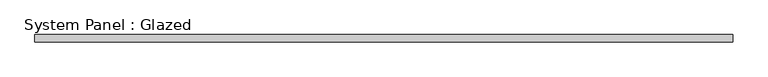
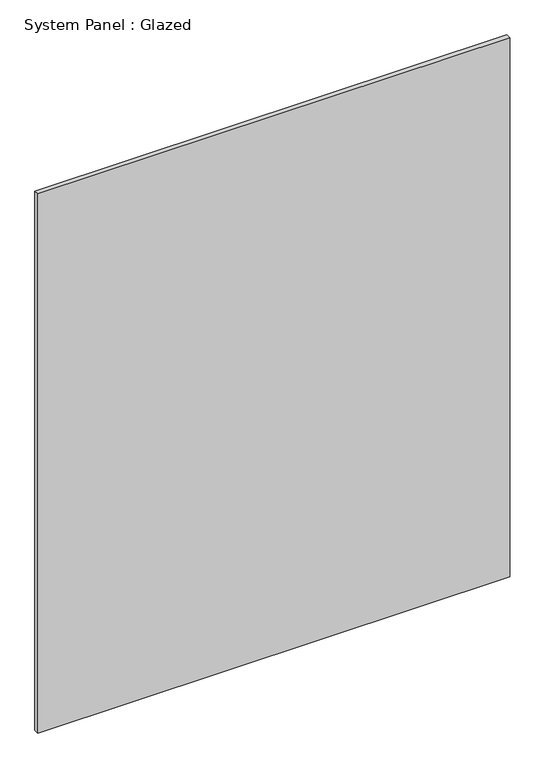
"""IFC4 building model written with IfcOpenShell, lengths in millimetres: plate geometry, System Panel : Glazed."""

from ifc_helpers import new_model, si_unit, origin, origin_with_axes, place, context, project, spatial, polyline, outline, extrude, source, transform, mapped, element, save


def system_panel_glazed_e83c8d5a(model_context):
    return source(origin(), model_context, "Body", "SweptSolid", [
        extrude(outline(polyline([(1222.3750001, -44.45), (-1222.3750001, -44.45), (-1222.3750001, -19.05), (1222.3750001, -19.05), (1222.3750001, -44.45)])), origin_with_axes(), (0.0, 0.0, 1.0), 2952.75),
    ])


if __name__ == "__main__":
    model = new_model("IFC4")
    model_context = context("Model", 3, world=origin())
    ifc_project = project(units=[si_unit("LENGTHUNIT", "METRE", prefix="MILLI")], contexts=[model_context])
    site = spatial("IfcSite", under=ifc_project)
    building = spatial("IfcBuilding", under=site)
    placement = place(None, origin())
    system_panel_glazed_shape = system_panel_glazed_e83c8d5a(model_context)
    element("IfcPlate", 1, ObjectType="System Panel : Glazed", at=placement, inside=building, context=model_context, shape_type="MappedRepresentation", body=[
        mapped(system_panel_glazed_shape, transform((0.0, 0.0, 0.0), x_axis=(1.0, 0.0, 0.0), y_axis=(0.0, 1.0, 0.0), z_axis=(0.0, 0.0, 1.0))),
    ])
    save(model, "model.ifc")
